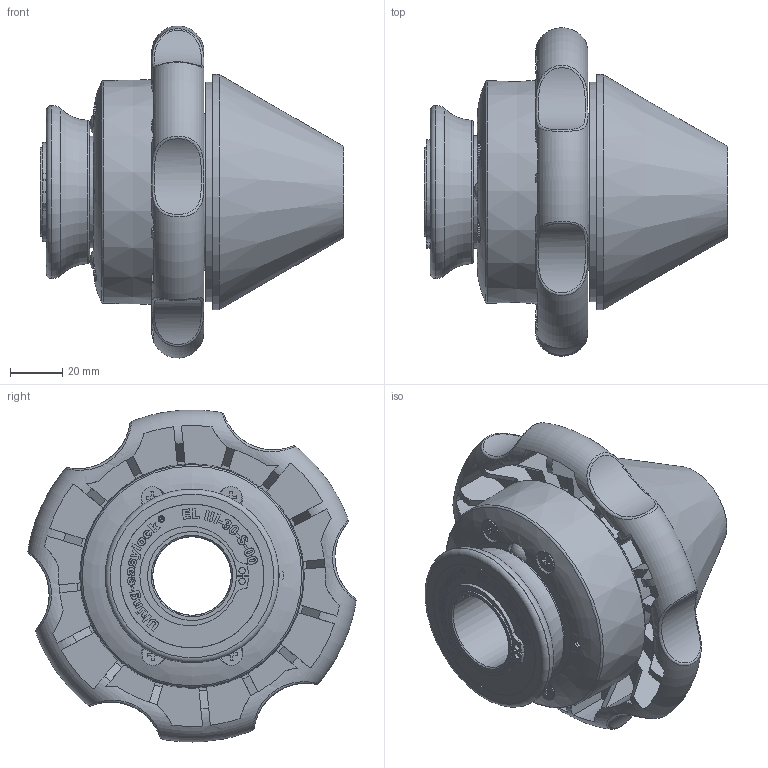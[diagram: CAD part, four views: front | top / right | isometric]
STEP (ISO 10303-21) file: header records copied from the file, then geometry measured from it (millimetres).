
FILE_DESCRIPTION (( 'STEP AP214' ), '1' );
FILE_NAME ('EL-III-30-K60.STEP', '2023-03-16T12:51:30', ( '' ), ( '' ), 'SwSTEP 2.0', 'SolidWorks 2022', '' );
FILE_SCHEMA (( 'AUTOMOTIVE_DESIGN' ));
Length unit declared in the file: millimetre
Products named in the file (1): EL-III-30-K60
Bounding box: 115.97 x 125.54 x 126.97 mm (x, y, z)
Volume: 348352.8 mm3; surface area: 179624.4 mm2
Topology: 42 solids, 71 shells, 1321 faces, 3376 edges, 2229 vertices
Faces by surface type: plane 665, bspline 388, cylinder 196, cone 55, torus 11, sphere 6
Full cylindrical faces by diameter (mm): 2.5 x8, 3 x1, 3.57 x3, 3.571 x1, 3.8 x4, 4 x8, 4.1 x4, 6 x3, 6.8 x1, 8 x1, 8.4 x4, 10.05 x2, 30.05 x2, 30.08 x1, 30.1 x1, 32.3 x1, 34 x5, 34.1 x1, 34.5 x2, 39 x1, 40 x1, 43.2 x1, 48.5 x1, 50 x3, 51 x1, 55 x1, 55.1 x1, 56.9 x4, 57 x2, 60 x4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
Entity records: 94117 total; most frequent: CARTESIAN_POINT 51411, ORIENTED_EDGE 6162, DIRECTION 4507, EDGE_CURVE 3081, VERTEX_POINT 2129, LINE 1725, VECTOR 1725, EDGE_LOOP 1616
